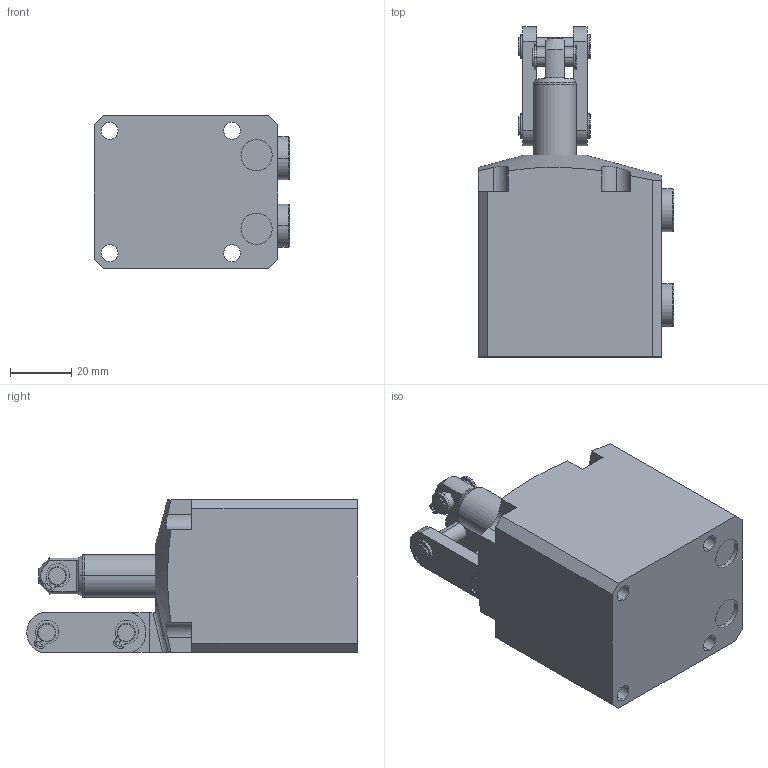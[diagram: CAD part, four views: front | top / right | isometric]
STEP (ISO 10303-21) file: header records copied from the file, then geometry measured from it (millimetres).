
FILE_DESCRIPTION(/* description */ (''),/* implementation_level */ '2;1');
FILE_NAME(/* name */ 'BPC04-R.stp',/* time_stamp */ '2025-01-05T10:03:56+08:00',/* author */ (''),/* organization */ (''),/* preprocessor_version */ 'ST-DEVELOPER v16.7',/* originating_system */ 'SIEMENS PLM Software NX 12.0',/* authorisation */ '');
FILE_SCHEMA (('AUTOMOTIVE_DESIGN { 1 0 10303 214 3 1 1 1 }'));
Length unit declared in the file: millimetre
Products named in the file (5): BPC04-R-04; BPC04-R-02; BPC04-R-01; BPC04-R-03; BPC04-R_stp
Assembly tree (5 placements, depth 2):
  BPC04-R_stp
    BPC04-R-03
    BPC04-R-01
    BPC04-R-02
    BPC04-R-04  x2
Bounding box: 63.8 x 107.97 x 50 mm (x, y, z)
Volume: 189701.9 mm3; surface area: 32568.2 mm2
Topology: 5 solids, 5 shells, 268 faces, 668 edges, 430 vertices
Faces by surface type: plane 120, cylinder 109, torus 20, cone 17, bspline 2
Entity records: 7829 total; most frequent: CARTESIAN_POINT 1617, DIRECTION 1328, ORIENTED_EDGE 1244, EDGE_CURVE 622, AXIS2_PLACEMENT_3D 500, VERTEX_POINT 402, LINE 328, VECTOR 328
